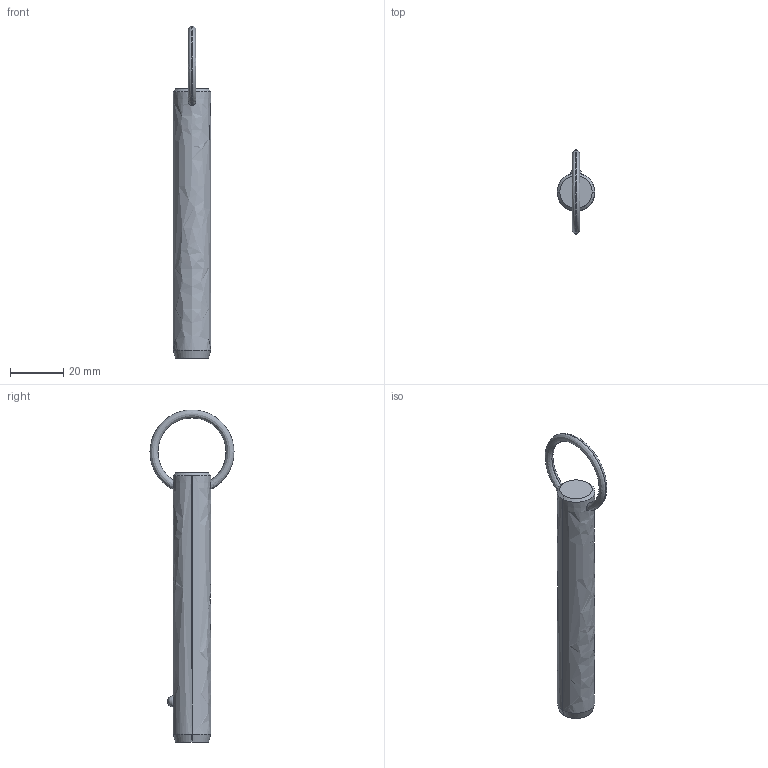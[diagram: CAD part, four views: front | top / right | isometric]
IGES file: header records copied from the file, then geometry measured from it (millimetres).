
Start section: SolidWorks IGES file using analytic representation for surfaces
Global section: file name: C:\Users\liam_\OneDrive\Documents\WORK\Work for WixRoyd\Job Files\J-00019 - Matt Davis CAD Checking\04. CAD Drawings\automotion20190605\P1250.2_v2\P1250.2_v2_20190729_IGES\P1250.056-300.igs; native system: SolidWorks 2017; preprocessor: SolidWorks 2017; author: liam_; date: 190729.231943; units: millimetre
Bounding box: 14.2 x 31.7 x 125.28 mm (x, y, z)
Surface area: 5493.8 mm2 (no closed solid volume)
Topology: 0 solids, 0 shells, 12 faces, 285 edges, 283 vertices
Faces by surface type: revolution 8, bspline 4
